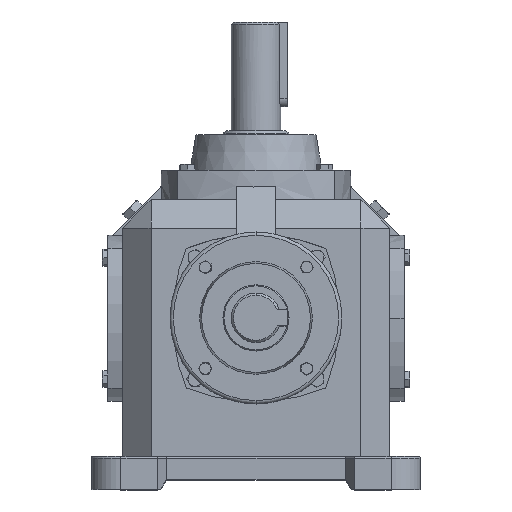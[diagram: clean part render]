
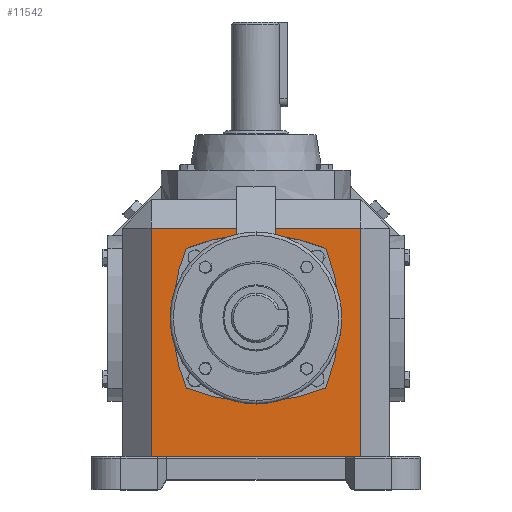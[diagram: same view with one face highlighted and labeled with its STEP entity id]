
A CAD part, top view. The second image highlights one B-rep face of the part: STEP entity #11542.
In plain terms, the highlighted planar face has unit normal (0, 0, 1).
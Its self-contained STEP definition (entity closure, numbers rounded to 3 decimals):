
#179 = EDGE_CURVE ( 'NONE', #6097, #15538, #3829, .T. ) ;
#232 = CARTESIAN_POINT ( 'NONE',  ( -30.464, 0., 40.5 ) ) ;
#513 = DIRECTION ( 'NONE',  ( 1., 0., 0. ) ) ;
#1041 = CARTESIAN_POINT ( 'NONE',  ( -31.867, 27.367, 40.5 ) ) ;
#1073 = LINE ( 'NONE', #7599, #8414 ) ;
#1138 = ORIENTED_EDGE ( 'NONE', *, *, #12645, .T. ) ;
#1336 = EDGE_CURVE ( 'NONE', #15425, #13212, #5035, .T. ) ;
#1905 = CARTESIAN_POINT ( 'NONE',  ( 21.19, 21.19, 40.5 ) ) ;
#2103 = DIRECTION ( 'NONE',  ( 1., 0., 0. ) ) ;
#2278 = EDGE_CURVE ( 'NONE', #15538, #9359, #16645, .T. ) ;
#2616 = ORIENTED_EDGE ( 'NONE', *, *, #5438, .T. ) ;
#2631 = ORIENTED_EDGE ( 'NONE', *, *, #2278, .T. ) ;
#2864 = DIRECTION ( 'NONE',  ( 0., 0., 1. ) ) ;
#3068 = EDGE_CURVE ( 'NONE', #12911, #13212, #9256, .T. ) ;
#3120 = AXIS2_PLACEMENT_3D ( 'NONE', #9804, #5938, #13554 ) ;
#3231 = DIRECTION ( 'NONE',  ( 0., 0., -1. ) ) ;
#3307 = CIRCLE ( 'NONE', #4117, 55.831 ) ;
#3361 = DIRECTION ( 'NONE',  ( 0., 0., 1. ) ) ;
#3737 = VERTEX_POINT ( 'NONE', #15302 ) ;
#3829 = LINE ( 'NONE', #6780, #7505 ) ;
#3850 = LINE ( 'NONE', #8681, #11360 ) ;
#4076 = AXIS2_PLACEMENT_3D ( 'NONE', #232, #2864, #10685 ) ;
#4117 = AXIS2_PLACEMENT_3D ( 'NONE', #10858, #14932, #513 ) ;
#4126 = VECTOR ( 'NONE', #9643, 1000. ) ;
#4204 = DIRECTION ( 'NONE',  ( 0., 1., 0. ) ) ;
#4473 = CARTESIAN_POINT ( 'NONE',  ( -21.19, 21.19, 40.5 ) ) ;
#4620 = CARTESIAN_POINT ( 'NONE',  ( -6.043, 27.367, 40.5 ) ) ;
#4671 = ORIENTED_EDGE ( 'NONE', *, *, #7460, .F. ) ;
#4772 = DIRECTION ( 'NONE',  ( 1., 0., 0. ) ) ;
#4794 = VECTOR ( 'NONE', #11535, 1000. ) ;
#4828 = CARTESIAN_POINT ( 'NONE',  ( -31.867, 36., 40.5 ) ) ;
#5035 = CIRCLE ( 'NONE', #13738, 55.831 ) ;
#5229 = AXIS2_PLACEMENT_3D ( 'NONE', #12460, #3231, #8629 ) ;
#5269 = CARTESIAN_POINT ( 'NONE',  ( -21.19, -21.19, 40.5 ) ) ;
#5438 = EDGE_CURVE ( 'NONE', #9359, #5821, #12650, .T. ) ;
#5628 = EDGE_CURVE ( 'NONE', #7993, #14444, #3307, .T. ) ;
#5660 = CARTESIAN_POINT ( 'NONE',  ( 21.19, -21.19, 40.5 ) ) ;
#5664 = ORIENTED_EDGE ( 'NONE', *, *, #6705, .F. ) ;
#5821 = VERTEX_POINT ( 'NONE', #6143 ) ;
#5827 = CARTESIAN_POINT ( 'NONE',  ( 6.043, 36., 40.5 ) ) ;
#5938 = DIRECTION ( 'NONE',  ( 0., 0., 1. ) ) ;
#5957 = PLANE ( 'NONE',  #5229 ) ;
#6097 = VERTEX_POINT ( 'NONE', #8057 ) ;
#6143 = CARTESIAN_POINT ( 'NONE',  ( -31.867, -42., 40.5 ) ) ;
#6473 = CIRCLE ( 'NONE', #12161, 55.831 ) ;
#6705 = EDGE_CURVE ( 'NONE', #12876, #15425, #13225, .T. ) ;
#6735 = ORIENTED_EDGE ( 'NONE', *, *, #7544, .F. ) ;
#6780 = CARTESIAN_POINT ( 'NONE',  ( -6.043, 36., 40.5 ) ) ;
#6799 = FACE_OUTER_BOUND ( 'NONE', #8274, .T. ) ;
#7460 = EDGE_CURVE ( 'NONE', #13615, #12876, #9957, .T. ) ;
#7505 = VECTOR ( 'NONE', #4204, 1000. ) ;
#7544 = EDGE_CURVE ( 'NONE', #14444, #13615, #15883, .T. ) ;
#7599 = CARTESIAN_POINT ( 'NONE',  ( 31.867, 36., 40.5 ) ) ;
#7624 = VECTOR ( 'NONE', #13551, 1000. ) ;
#7884 = ORIENTED_EDGE ( 'NONE', *, *, #1336, .F. ) ;
#7993 = VERTEX_POINT ( 'NONE', #4473 ) ;
#8003 = ORIENTED_EDGE ( 'NONE', *, *, #179, .T. ) ;
#8057 = CARTESIAN_POINT ( 'NONE',  ( -6.043, 25.039, 40.5 ) ) ;
#8274 = EDGE_LOOP ( 'NONE', ( #8691, #8003, #2631, #2616, #16839, #1138, #12135, #12540, #7884, #5664, #4671, #6735, #10197 ) ) ;
#8414 = VECTOR ( 'NONE', #9076, 1000. ) ;
#8516 = DIRECTION ( 'NONE',  ( 1., 0., 0. ) ) ;
#8629 = DIRECTION ( 'NONE',  ( -1., 0., 0. ) ) ;
#8662 = DIRECTION ( 'NONE',  ( 0., 0., 1. ) ) ;
#8681 = CARTESIAN_POINT ( 'NONE',  ( -40.5, -42., 40.5 ) ) ;
#8691 = ORIENTED_EDGE ( 'NONE', *, *, #9202, .F. ) ;
#9076 = DIRECTION ( 'NONE',  ( 0., 1., 0. ) ) ;
#9202 = EDGE_CURVE ( 'NONE', #6097, #7993, #6473, .T. ) ;
#9256 = LINE ( 'NONE', #5827, #7624 ) ;
#9261 = CARTESIAN_POINT ( 'NONE',  ( -25.367, 0., 40.5 ) ) ;
#9359 = VERTEX_POINT ( 'NONE', #1041 ) ;
#9643 = DIRECTION ( 'NONE',  ( -1., 0., 0. ) ) ;
#9804 = CARTESIAN_POINT ( 'NONE',  ( 0., 30.464, 40.5 ) ) ;
#9957 = CIRCLE ( 'NONE', #3120, 55.831 ) ;
#10197 = ORIENTED_EDGE ( 'NONE', *, *, #5628, .F. ) ;
#10685 = DIRECTION ( 'NONE',  ( 1., 0., 0. ) ) ;
#10858 = CARTESIAN_POINT ( 'NONE',  ( 30.464, 0., 40.5 ) ) ;
#11231 = CARTESIAN_POINT ( 'NONE',  ( 31.867, 27.367, 40.5 ) ) ;
#11360 = VECTOR ( 'NONE', #8516, 1000. ) ;
#11535 = DIRECTION ( 'NONE',  ( -1., 0., 0. ) ) ;
#11542 = ADVANCED_FACE ( 'NONE', ( #6799 ), #5957, .F. ) ;
#12065 = CARTESIAN_POINT ( 'NONE',  ( 6.043, 27.367, 40.5 ) ) ;
#12135 = ORIENTED_EDGE ( 'NONE', *, *, #12807, .T. ) ;
#12161 = AXIS2_PLACEMENT_3D ( 'NONE', #13843, #15198, #2103 ) ;
#12244 = CARTESIAN_POINT ( 'NONE',  ( 6.043, 25.039, 40.5 ) ) ;
#12460 = CARTESIAN_POINT ( 'NONE',  ( -40.5, 36., 40.5 ) ) ;
#12540 = ORIENTED_EDGE ( 'NONE', *, *, #3068, .T. ) ;
#12645 = EDGE_CURVE ( 'NONE', #3737, #14604, #1073, .T. ) ;
#12650 = LINE ( 'NONE', #4828, #15949 ) ;
#12807 = EDGE_CURVE ( 'NONE', #14604, #12911, #13699, .T. ) ;
#12876 = VERTEX_POINT ( 'NONE', #5660 ) ;
#12911 = VERTEX_POINT ( 'NONE', #12065 ) ;
#12961 = DIRECTION ( 'NONE',  ( 0., -1., 0. ) ) ;
#13212 = VERTEX_POINT ( 'NONE', #12244 ) ;
#13225 = CIRCLE ( 'NONE', #4076, 55.831 ) ;
#13551 = DIRECTION ( 'NONE',  ( 0., -1., 0. ) ) ;
#13554 = DIRECTION ( 'NONE',  ( 1., 0., 0. ) ) ;
#13615 = VERTEX_POINT ( 'NONE', #5269 ) ;
#13699 = LINE ( 'NONE', #16154, #4126 ) ;
#13738 = AXIS2_PLACEMENT_3D ( 'NONE', #16596, #3361, #4772 ) ;
#13843 = CARTESIAN_POINT ( 'NONE',  ( 0., -30.464, 40.5 ) ) ;
#14014 = DIRECTION ( 'NONE',  ( 1., 0., 0. ) ) ;
#14444 = VERTEX_POINT ( 'NONE', #9261 ) ;
#14604 = VERTEX_POINT ( 'NONE', #11231 ) ;
#14932 = DIRECTION ( 'NONE',  ( 0., 0., 1. ) ) ;
#15198 = DIRECTION ( 'NONE',  ( 0., 0., 1. ) ) ;
#15264 = CARTESIAN_POINT ( 'NONE',  ( 30.464, 0., 40.5 ) ) ;
#15302 = CARTESIAN_POINT ( 'NONE',  ( 31.867, -42., 40.5 ) ) ;
#15425 = VERTEX_POINT ( 'NONE', #1905 ) ;
#15483 = EDGE_CURVE ( 'NONE', #5821, #3737, #3850, .T. ) ;
#15538 = VERTEX_POINT ( 'NONE', #4620 ) ;
#15883 = CIRCLE ( 'NONE', #16795, 55.831 ) ;
#15949 = VECTOR ( 'NONE', #12961, 1000. ) ;
#16154 = CARTESIAN_POINT ( 'NONE',  ( -40.5, 27.367, 40.5 ) ) ;
#16596 = CARTESIAN_POINT ( 'NONE',  ( 0., -30.464, 40.5 ) ) ;
#16645 = LINE ( 'NONE', #16947, #4794 ) ;
#16795 = AXIS2_PLACEMENT_3D ( 'NONE', #15264, #8662, #14014 ) ;
#16839 = ORIENTED_EDGE ( 'NONE', *, *, #15483, .T. ) ;
#16947 = CARTESIAN_POINT ( 'NONE',  ( -40.5, 27.367, 40.5 ) ) ;
